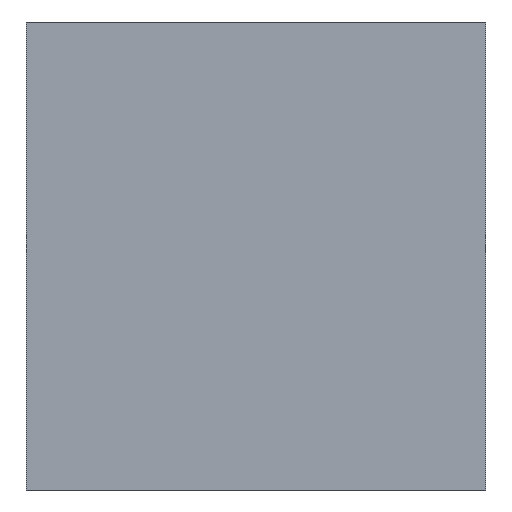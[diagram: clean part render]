
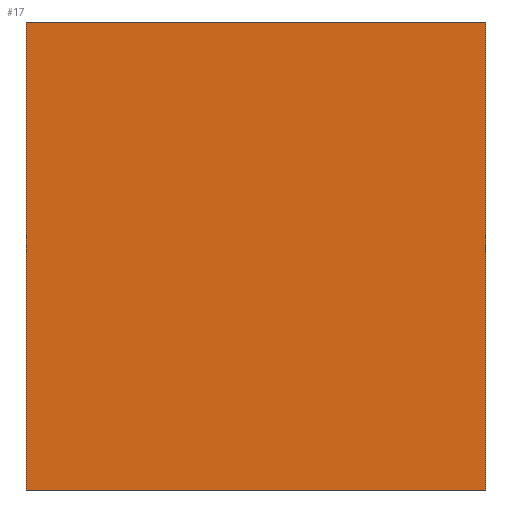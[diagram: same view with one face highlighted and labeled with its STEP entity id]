
A CAD part, left-side view. The second image highlights one B-rep face of the part: STEP entity #17.
In plain terms, the highlighted planar face has unit normal (-1, 0, 0).
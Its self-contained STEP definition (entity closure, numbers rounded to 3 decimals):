
#17 = ADVANCED_FACE('',(#18),#52,.F.);
#18 = FACE_BOUND('',#19,.F.);
#19 = EDGE_LOOP('',(#20,#30,#38,#46));
#20 = ORIENTED_EDGE('',*,*,#21,.F.);
#21 = EDGE_CURVE('',#22,#24,#26,.T.);
#22 = VERTEX_POINT('',#23);
#23 = CARTESIAN_POINT('',(-540.,-540.,0.));
#24 = VERTEX_POINT('',#25);
#25 = CARTESIAN_POINT('',(-540.,-540.,1100.));
#26 = LINE('',#27,#28);
#27 = CARTESIAN_POINT('',(-540.,-540.,0.));
#28 = VECTOR('',#29,1.);
#29 = DIRECTION('',(0.,0.,1.));
#30 = ORIENTED_EDGE('',*,*,#31,.T.);
#31 = EDGE_CURVE('',#22,#32,#34,.T.);
#32 = VERTEX_POINT('',#33);
#33 = CARTESIAN_POINT('',(-540.,540.,0.));
#34 = LINE('',#35,#36);
#35 = CARTESIAN_POINT('',(-540.,-540.,0.));
#36 = VECTOR('',#37,1.);
#37 = DIRECTION('',(-0.,1.,0.));
#38 = ORIENTED_EDGE('',*,*,#39,.T.);
#39 = EDGE_CURVE('',#32,#40,#42,.T.);
#40 = VERTEX_POINT('',#41);
#41 = CARTESIAN_POINT('',(-540.,540.,1100.));
#42 = LINE('',#43,#44);
#43 = CARTESIAN_POINT('',(-540.,540.,0.));
#44 = VECTOR('',#45,1.);
#45 = DIRECTION('',(0.,0.,1.));
#46 = ORIENTED_EDGE('',*,*,#47,.F.);
#47 = EDGE_CURVE('',#24,#40,#48,.T.);
#48 = LINE('',#49,#50);
#49 = CARTESIAN_POINT('',(-540.,-540.,1100.));
#50 = VECTOR('',#51,1.);
#51 = DIRECTION('',(-0.,1.,0.));
#52 = PLANE('',#53);
#53 = AXIS2_PLACEMENT_3D('',#54,#55,#56);
#54 = CARTESIAN_POINT('',(-540.,-540.,0.));
#55 = DIRECTION('',(1.,0.,-0.));
#56 = DIRECTION('',(0.,0.,1.));
